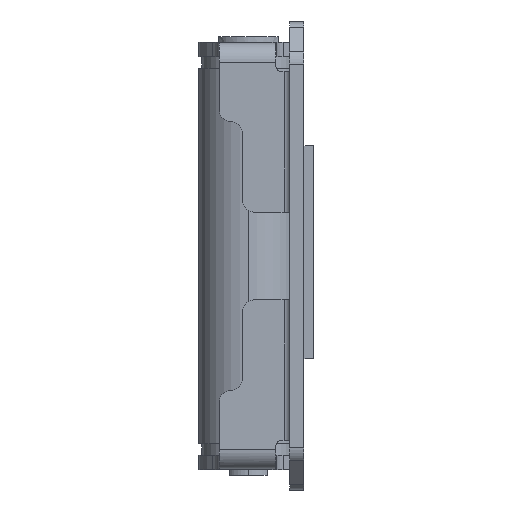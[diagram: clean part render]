
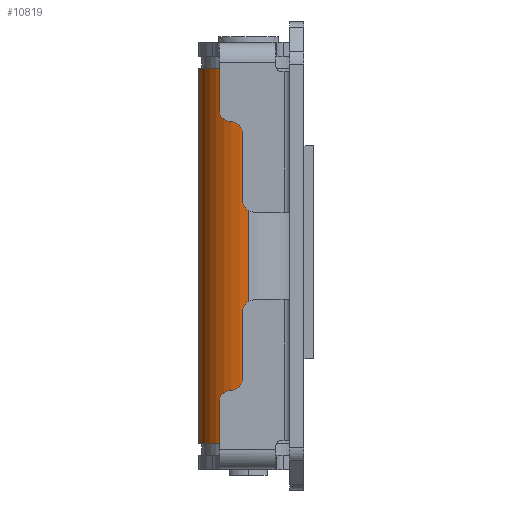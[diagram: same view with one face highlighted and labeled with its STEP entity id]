
A CAD part, left-side view. The second image highlights one B-rep face of the part: STEP entity #10819.
In plain terms, the highlighted cylindrical face has radius 4.25 mm (diameter 8.5 mm), a partial arc.
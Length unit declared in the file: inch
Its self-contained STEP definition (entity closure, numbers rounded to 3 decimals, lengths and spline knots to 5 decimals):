
#288 = CARTESIAN_POINT ( 'NONE',  ( 0.16522, 0.19425, 0.09843 ) ) ;
#651 = B_SPLINE_CURVE_WITH_KNOTS ( 'NONE', 3,
 ( #16345, #288, #17973, #4797, #10686, #9231 ),
 .UNSPECIFIED., .F., .F.,
 ( 4, 2, 4 ),
 ( 0., 0.5, 1. ),
 .UNSPECIFIED. ) ;
#730 = CARTESIAN_POINT ( 'NONE',  ( 0.16732, 0.16732, -0.09843 ) ) ;
#769 = CARTESIAN_POINT ( 'NONE',  ( 0., 0.16732, 0.63189 ) ) ;
#931 = DIRECTION ( 'NONE',  ( 1., 0., 0. ) ) ;
#1079 = LINE ( 'NONE', #8301, #13458 ) ;
#1111 = CARTESIAN_POINT ( 'NONE',  ( 0.16219, 0.20847, 0.09843 ) ) ;
#1248 = CARTESIAN_POINT ( 'NONE',  ( 0., 0.16732, -0.63189 ) ) ;
#1249 = VERTEX_POINT ( 'NONE', #13370 ) ;
#1527 = ORIENTED_EDGE ( 'NONE', *, *, #9946, .T. ) ;
#1620 = CARTESIAN_POINT ( 'NONE',  ( 0.16732, 0.16732, -0.63189 ) ) ;
#2386 = ORIENTED_EDGE ( 'NONE', *, *, #17396, .T. ) ;
#2643 = CARTESIAN_POINT ( 'NONE',  ( 0.16219, 0.20847, -0.07874 ) ) ;
#2830 = CARTESIAN_POINT ( 'NONE',  ( -0.16732, 0.16732, 0.63189 ) ) ;
#2880 = CARTESIAN_POINT ( 'NONE',  ( 0., 0.16732, 0.7874 ) ) ;
#2901 = VERTEX_POINT ( 'NONE', #3458 ) ;
#3059 = VERTEX_POINT ( 'NONE', #15766 ) ;
#3206 = CARTESIAN_POINT ( 'NONE',  ( 0.16219, 0.20847, 0.07874 ) ) ;
#3390 = DIRECTION ( 'NONE',  ( 0., 0., -1. ) ) ;
#3432 = EDGE_CURVE ( 'NONE', #18208, #16520, #8306, .T. ) ;
#3458 = CARTESIAN_POINT ( 'NONE',  ( 0.16732, 0.16732, 0.63189 ) ) ;
#3627 = EDGE_CURVE ( 'NONE', #18280, #13525, #8420, .T. ) ;
#3730 = DIRECTION ( 'NONE',  ( 0., 0., 1. ) ) ;
#4698 = AXIS2_PLACEMENT_3D ( 'NONE', #14007, #3730, #931 ) ;
#4797 = CARTESIAN_POINT ( 'NONE',  ( 0.16274, 0.2064, 0.08904 ) ) ;
#5271 = CIRCLE ( 'NONE', #17576, 0.16732 ) ;
#5373 = EDGE_CURVE ( 'NONE', #3059, #18208, #7591, .T. ) ;
#5397 = DIRECTION ( 'NONE',  ( 0., 0., -1. ) ) ;
#5415 = CARTESIAN_POINT ( 'NONE',  ( -0.16732, 0.16732, 0.7874 ) ) ;
#5769 = DIRECTION ( 'NONE',  ( -1., 0., 0. ) ) ;
#6623 = CYLINDRICAL_SURFACE ( 'NONE', #12606, 0.16732 ) ;
#7062 = CARTESIAN_POINT ( 'NONE',  ( 0.16219, 0.20844, -0.08399 ) ) ;
#7305 = AXIS2_PLACEMENT_3D ( 'NONE', #11010, #3390, #16755 ) ;
#7591 = CIRCLE ( 'NONE', #7305, 0.16732 ) ;
#7668 = EDGE_CURVE ( 'NONE', #11075, #1249, #12030, .T. ) ;
#7914 = ORIENTED_EDGE ( 'NONE', *, *, #3627, .T. ) ;
#8014 = DIRECTION ( 'NONE',  ( 0., 0., -1. ) ) ;
#8301 = CARTESIAN_POINT ( 'NONE',  ( 0.16732, 0.16732, 0.7874 ) ) ;
#8306 = LINE ( 'NONE', #15606, #11751 ) ;
#8313 = DIRECTION ( 'NONE',  ( 0., 0., -1. ) ) ;
#8407 = LINE ( 'NONE', #5415, #16898 ) ;
#8420 = LINE ( 'NONE', #1111, #16637 ) ;
#8712 = CARTESIAN_POINT ( 'NONE',  ( 0.16732, 0.16732, 0.09843 ) ) ;
#9231 = CARTESIAN_POINT ( 'NONE',  ( 0.16219, 0.20847, 0.07874 ) ) ;
#9244 = ORIENTED_EDGE ( 'NONE', *, *, #13733, .F. ) ;
#9269 = ORIENTED_EDGE ( 'NONE', *, *, #17737, .F. ) ;
#9339 = CARTESIAN_POINT ( 'NONE',  ( 0.1659, 0.1891, -0.09843 ) ) ;
#9946 = EDGE_CURVE ( 'NONE', #13525, #3059, #18129, .T. ) ;
#10415 = ORIENTED_EDGE ( 'NONE', *, *, #5373, .T. ) ;
#10686 = CARTESIAN_POINT ( 'NONE',  ( 0.16219, 0.20844, 0.08399 ) ) ;
#10793 = CARTESIAN_POINT ( 'NONE',  ( 0.16428, 0.19928, -0.09631 ) ) ;
#10819 = ADVANCED_FACE ( 'NONE', ( #12599 ), #6623, .T. ) ;
#11010 = CARTESIAN_POINT ( 'NONE',  ( 0., 0.16732, -0.09843 ) ) ;
#11075 = VERTEX_POINT ( 'NONE', #8712 ) ;
#11312 = EDGE_CURVE ( 'NONE', #2901, #11075, #1079, .T. ) ;
#11363 = DIRECTION ( 'NONE',  ( 0., 0., 1. ) ) ;
#11563 = DIRECTION ( 'NONE',  ( -1., 0., 0. ) ) ;
#11591 = EDGE_CURVE ( 'NONE', #16520, #18179, #5271, .T. ) ;
#11657 = EDGE_LOOP ( 'NONE', ( #9269, #9244, #14292, #12972, #2386, #7914, #1527, #10415, #16469, #16730 ) ) ;
#11751 = VECTOR ( 'NONE', #8014, 39.37008 ) ;
#12030 = CIRCLE ( 'NONE', #4698, 0.16732 ) ;
#12599 = FACE_OUTER_BOUND ( 'NONE', #11657, .T. ) ;
#12606 = AXIS2_PLACEMENT_3D ( 'NONE', #2880, #18843, #5769 ) ;
#12608 = DIRECTION ( 'NONE',  ( -1., 0., 0. ) ) ;
#12764 = AXIS2_PLACEMENT_3D ( 'NONE', #769, #13943, #12608 ) ;
#12908 = CARTESIAN_POINT ( 'NONE',  ( 0.16219, 0.20847, -0.07874 ) ) ;
#12972 = ORIENTED_EDGE ( 'NONE', *, *, #7668, .T. ) ;
#13370 = CARTESIAN_POINT ( 'NONE',  ( 0.1659, 0.1891, 0.09843 ) ) ;
#13458 = VECTOR ( 'NONE', #5397, 39.37008 ) ;
#13525 = VERTEX_POINT ( 'NONE', #12908 ) ;
#13733 = EDGE_CURVE ( 'NONE', #2901, #14704, #18587, .T. ) ;
#13943 = DIRECTION ( 'NONE',  ( 0., 0., 1. ) ) ;
#13991 = CARTESIAN_POINT ( 'NONE',  ( -0.16732, 0.16732, -0.63189 ) ) ;
#14007 = CARTESIAN_POINT ( 'NONE',  ( 0., 0.16732, 0.09843 ) ) ;
#14292 = ORIENTED_EDGE ( 'NONE', *, *, #11312, .T. ) ;
#14704 = VERTEX_POINT ( 'NONE', #2830 ) ;
#15099 = CARTESIAN_POINT ( 'NONE',  ( 0.16522, 0.19425, -0.09843 ) ) ;
#15606 = CARTESIAN_POINT ( 'NONE',  ( 0.16732, 0.16732, 0.7874 ) ) ;
#15766 = CARTESIAN_POINT ( 'NONE',  ( 0.1659, 0.1891, -0.09843 ) ) ;
#16345 = CARTESIAN_POINT ( 'NONE',  ( 0.1659, 0.1891, 0.09843 ) ) ;
#16469 = ORIENTED_EDGE ( 'NONE', *, *, #3432, .T. ) ;
#16520 = VERTEX_POINT ( 'NONE', #1620 ) ;
#16637 = VECTOR ( 'NONE', #18605, 39.37008 ) ;
#16730 = ORIENTED_EDGE ( 'NONE', *, *, #11591, .T. ) ;
#16755 = DIRECTION ( 'NONE',  ( -1., 0., 0. ) ) ;
#16898 = VECTOR ( 'NONE', #8313, 39.37008 ) ;
#17396 = EDGE_CURVE ( 'NONE', #1249, #18280, #651, .T. ) ;
#17576 = AXIS2_PLACEMENT_3D ( 'NONE', #1248, #11363, #11563 ) ;
#17737 = EDGE_CURVE ( 'NONE', #14704, #18179, #8407, .T. ) ;
#17815 = CARTESIAN_POINT ( 'NONE',  ( 0.16274, 0.20641, -0.08903 ) ) ;
#17973 = CARTESIAN_POINT ( 'NONE',  ( 0.16429, 0.19927, 0.09632 ) ) ;
#18129 = B_SPLINE_CURVE_WITH_KNOTS ( 'NONE', 3,
 ( #2643, #7062, #17815, #10793, #15099, #9339 ),
 .UNSPECIFIED., .F., .F.,
 ( 4, 2, 4 ),
 ( 0., 0.5, 1. ),
 .UNSPECIFIED. ) ;
#18179 = VERTEX_POINT ( 'NONE', #13991 ) ;
#18208 = VERTEX_POINT ( 'NONE', #730 ) ;
#18280 = VERTEX_POINT ( 'NONE', #3206 ) ;
#18587 = CIRCLE ( 'NONE', #12764, 0.16732 ) ;
#18605 = DIRECTION ( 'NONE',  ( 0., 0., -1. ) ) ;
#18843 = DIRECTION ( 'NONE',  ( 0., 0., -1. ) ) ;
